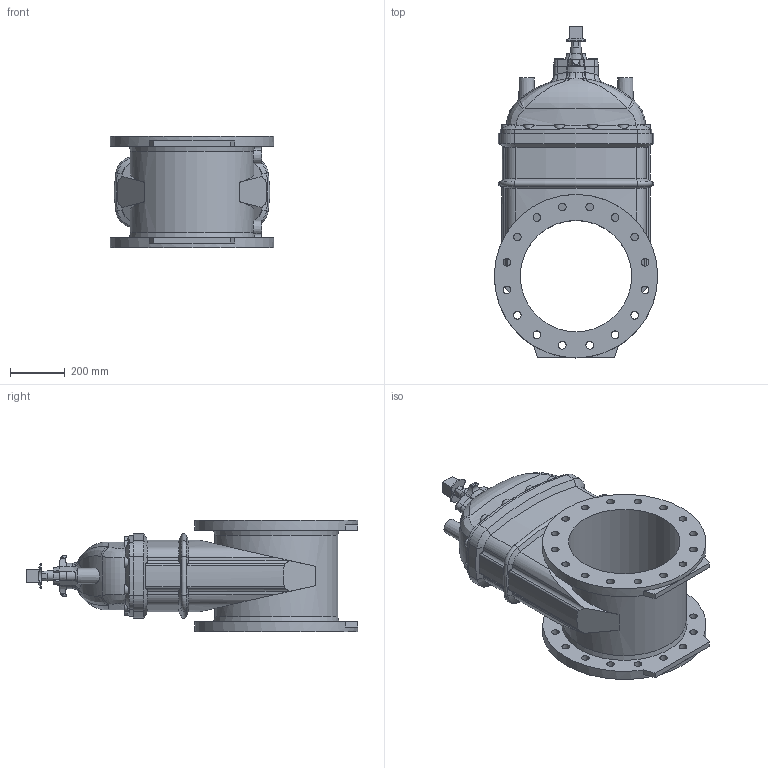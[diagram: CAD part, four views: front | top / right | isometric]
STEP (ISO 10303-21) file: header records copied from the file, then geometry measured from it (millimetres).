
FILE_DESCRIPTION (( 'STEP AP203' ), '1' );
FILE_NAME ('O_45_5D_DN400_X0XXX_AA1.step', '2017-09-22T05:51:46', ( 'Windows User' ), ( 'AVK' ), 'SwSTEP 2.0', 'SolidWorks 2012', '' );
FILE_SCHEMA (( 'CONFIG_CONTROL_DESIGN' ));
Length unit declared in the file: millimetre
Products named in the file (1): O_45_5D_DN400_X0XXX_AA1
Bounding box: 597 x 1212.5 x 406 mm (x, y, z)
Volume: 87391556.3 mm3; surface area: 2653717 mm2
Topology: 1 solids, 1 shells, 435 faces, 1152 edges, 732 vertices
Faces by surface type: cylinder 139, plane 115, bspline 100, cone 67, torus 14
Full cylindrical faces by diameter (mm): 28 x32, 40 x1, 407 x1, 451 x1, 597 x2
Entity records: 19775 total; most frequent: CARTESIAN_POINT 10102, ORIENTED_EDGE 2196, DIRECTION 1649, EDGE_CURVE 1098, VERTEX_POINT 721, AXIS2_PLACEMENT_3D 692, EDGE_LOOP 557, FACE_OUTER_BOUND 472
